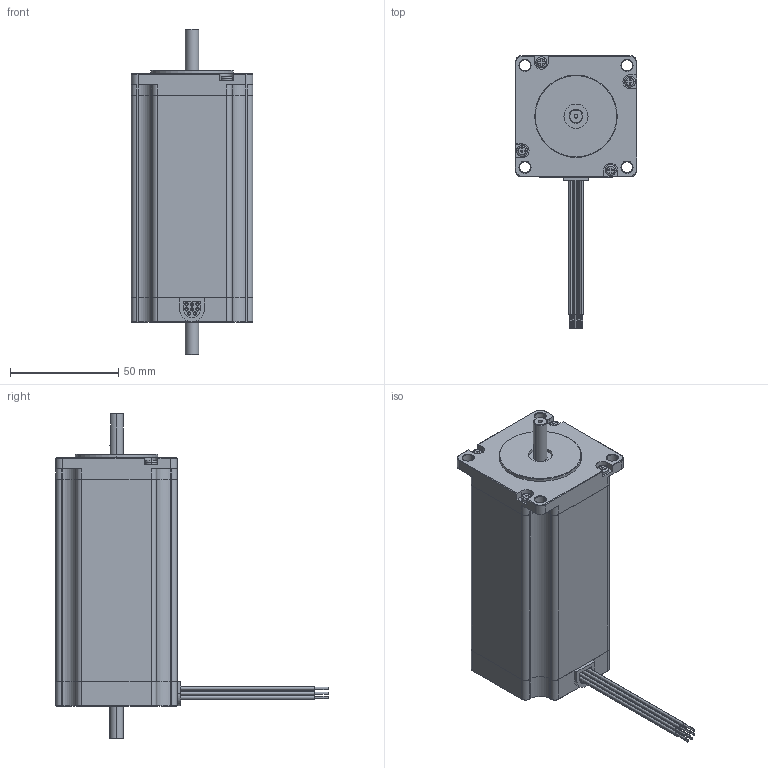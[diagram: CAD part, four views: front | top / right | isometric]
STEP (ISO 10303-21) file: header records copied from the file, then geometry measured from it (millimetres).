
FILE_DESCRIPTION (( 'STEP AP214' ), '1' );
FILE_NAME ('23Y302D-LW8.STEP', '2010-06-11T15:25:25', ( 'Tim Raines' ), ( 'Anaheim Automation' ), 'SwSTEP 2.0', 'SolidWorks 2010', '' );
FILE_SCHEMA (( 'AUTOMOTIVE_DESIGN' ));
Length unit declared in the file: inch
Products named in the file (1): 23Y302D-LW8
Bounding box: 56.13 x 125.98 x 150.57 mm (x, y, z)
Volume: 327134.2 mm3; surface area: 34420.3 mm2
Topology: 1 solids, 1 shells, 348 faces, 858 edges, 540 vertices
Faces by surface type: plane 164, cylinder 121, cone 55, torus 8
Entity records: 14746 total; most frequent: DIRECTION 1845, CARTESIAN_POINT 1741, ORIENTED_EDGE 1692, EDGE_CURVE 846, AXIS2_PLACEMENT_3D 652, VECTOR 541, LINE 541, VERTEX_POINT 540
